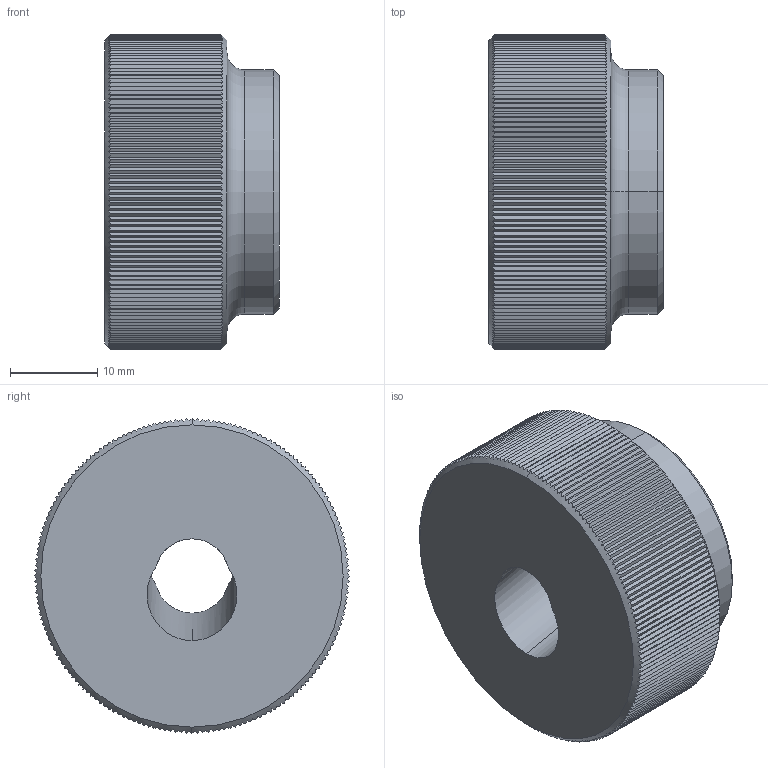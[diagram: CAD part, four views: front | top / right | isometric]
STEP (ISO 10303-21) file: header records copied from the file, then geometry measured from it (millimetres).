
FILE_DESCRIPTION (( 'STEP AP203' ), '1' );
FILE_NAME ('3736.W010.step', '2009-12-09T21:50:48', ( 'Wixroyd' ), ( 'Wixroyd' ), 'SwSTEP 2.0', 'SolidWorks 2009', '' );
FILE_SCHEMA (( 'CONFIG_CONTROL_DESIGN' ));
Length unit declared in the file: millimetre
Products named in the file (1): 3736.W010
Bounding box: 20 x 36 x 36 mm (x, y, z)
Volume: 16029.2 mm3; surface area: 4801.4 mm2
Topology: 1 solids, 1 shells, 378 faces, 1116 edges, 741 vertices
Faces by surface type: plane 363, cylinder 7, cone 6, torus 2
Entity records: 13214 total; most frequent: CARTESIAN_POINT 4484, ORIENTED_EDGE 2232, DIRECTION 1163, EDGE_CURVE 1116, VERTEX_POINT 741, B_SPLINE_CURVE_WITH_KNOTS 724, AXIS2_PLACEMENT_3D 396, EDGE_LOOP 381
